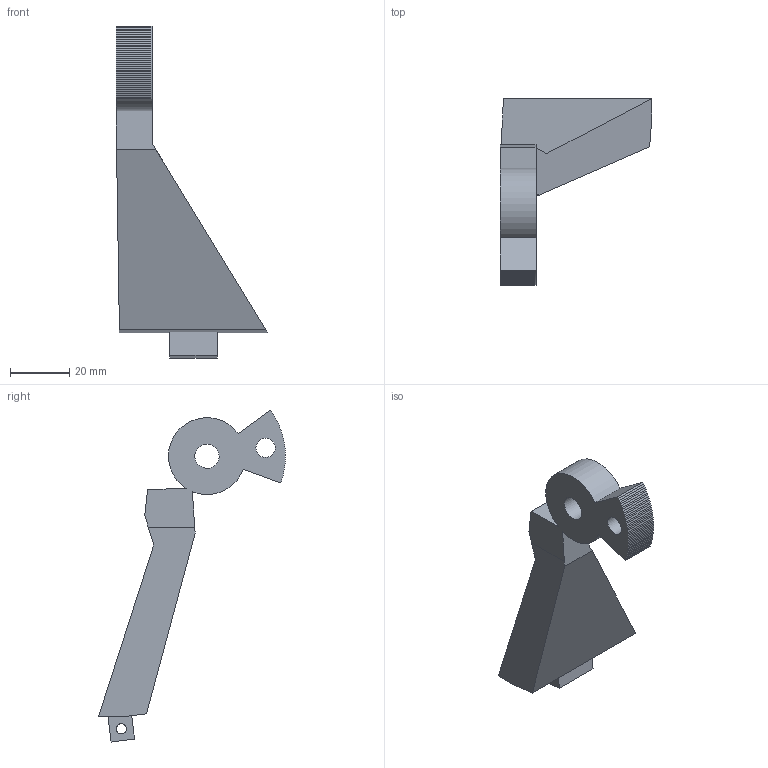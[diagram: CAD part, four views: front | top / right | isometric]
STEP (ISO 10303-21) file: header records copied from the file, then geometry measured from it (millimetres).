
FILE_DESCRIPTION(('Open CASCADE Model'),'2;1');
FILE_NAME('Open CASCADE Shape Model','2026-10-16T05:25:09',('Author'),( 'Open CASCADE'),'Open CASCADE STEP processor 7.9','Open CASCADE 7.9' ,'Unknown');
FILE_SCHEMA(('AUTOMOTIVE_DESIGN { 1 0 10303 214 1 1 1 1 }'));
Length unit declared in the file: millimetre
Products named in the file (1): Open CASCADE STEP translator 7.9 31
Bounding box: 51 x 63.09 x 112.09 mm (x, y, z)
Volume: 40743.3 mm3; surface area: 11708.5 mm2
Topology: 1 solids, 1 shells, 65 faces, 189 edges, 126 vertices
Faces by surface type: plane 58, cylinder 7
Full cylindrical faces by diameter (mm): 3.4 x1, 6.5 x1
Entity records: 4605 total; most frequent: CARTESIAN_POINT 795, DIRECTION 702, LINE 533, VECTOR 533, ORIENTED_EDGE 378, PCURVE 378, DEFINITIONAL_REPRESENTATION 378, EDGE_CURVE 189
